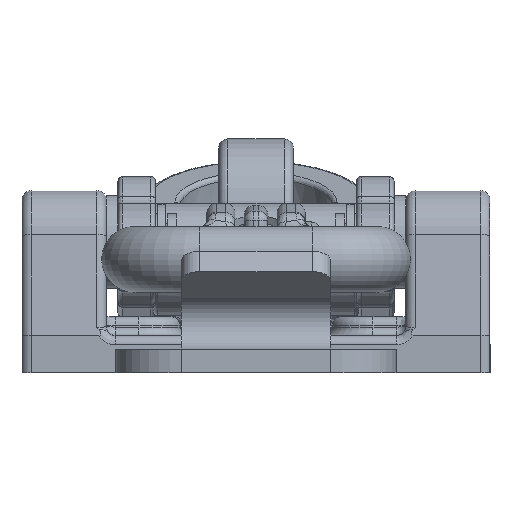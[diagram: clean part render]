
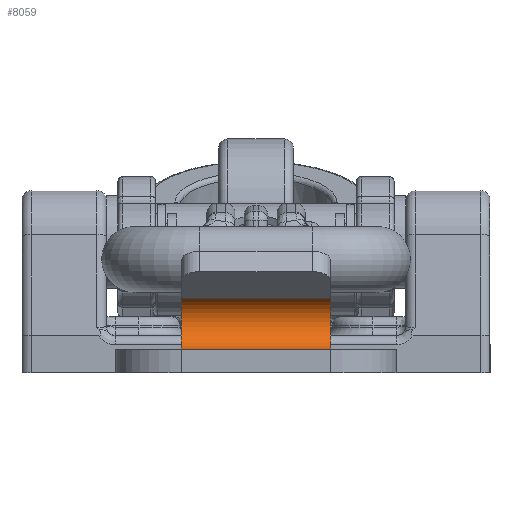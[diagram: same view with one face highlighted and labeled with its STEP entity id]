
A CAD part, left-side view. The second image highlights one B-rep face of the part: STEP entity #8059.
In plain terms, the highlighted cylindrical face has radius 2.905 mm (diameter 5.81 mm), a partial arc.
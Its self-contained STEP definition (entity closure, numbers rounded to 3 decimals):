
#866=FACE_OUTER_BOUND('',#1442,.T.);
#1442=EDGE_LOOP('',(#5457,#5458,#5459,#5460));
#2086=LINE('',#12290,#2423);
#2108=LINE('',#12379,#2445);
#2423=VECTOR('',#9745,16.);
#2445=VECTOR('',#9843,16.);
#2753=CIRCLE('',#8621,2.905);
#2758=CIRCLE('',#8629,2.905);
#3358=VERTEX_POINT('',#12270);
#3359=VERTEX_POINT('',#12272);
#3366=VERTEX_POINT('',#12288);
#3373=VERTEX_POINT('',#12306);
#4116=EDGE_CURVE('',#3358,#3359,#2753,.T.);
#4125=EDGE_CURVE('',#3366,#3358,#2086,.T.);
#4134=EDGE_CURVE('',#3373,#3366,#2758,.T.);
#4168=EDGE_CURVE('',#3359,#3373,#2108,.T.);
#5457=ORIENTED_EDGE('',*,*,#4134,.F.);
#5458=ORIENTED_EDGE('',*,*,#4168,.F.);
#5459=ORIENTED_EDGE('',*,*,#4116,.F.);
#5460=ORIENTED_EDGE('',*,*,#4125,.F.);
#7854=CYLINDRICAL_SURFACE('',#8663,2.905);
#8059=ADVANCED_FACE('',(#866),#7854,.F.);
#8621=AXIS2_PLACEMENT_3D('',#12273,#9731,#9732);
#8629=AXIS2_PLACEMENT_3D('',#12308,#9760,#9761);
#8663=AXIS2_PLACEMENT_3D('',#12381,#9845,#9846);
#9731=DIRECTION('center_axis',(0.,0.,-1.));
#9732=DIRECTION('ref_axis',(0.,1.,0.));
#9745=DIRECTION('',(0.,0.,1.));
#9760=DIRECTION('center_axis',(0.,0.,1.));
#9761=DIRECTION('ref_axis',(0.,1.,0.));
#9843=DIRECTION('',(0.,0.,-1.));
#9845=DIRECTION('center_axis',(0.,0.,1.));
#9846=DIRECTION('ref_axis',(0.,1.,0.));
#12270=CARTESIAN_POINT('',(-3.952,7.921,8.));
#12272=CARTESIAN_POINT('',(-5.405,2.5,8.));
#12273=CARTESIAN_POINT('Origin',(-5.405,5.405,8.));
#12288=CARTESIAN_POINT('',(-3.952,7.921,-8.));
#12290=CARTESIAN_POINT('',(-3.952,7.921,0.));
#12306=CARTESIAN_POINT('',(-5.405,2.5,-8.));
#12308=CARTESIAN_POINT('Origin',(-5.405,5.405,-8.));
#12379=CARTESIAN_POINT('',(-5.405,2.5,0.));
#12381=CARTESIAN_POINT('Origin',(-5.405,5.405,0.));
